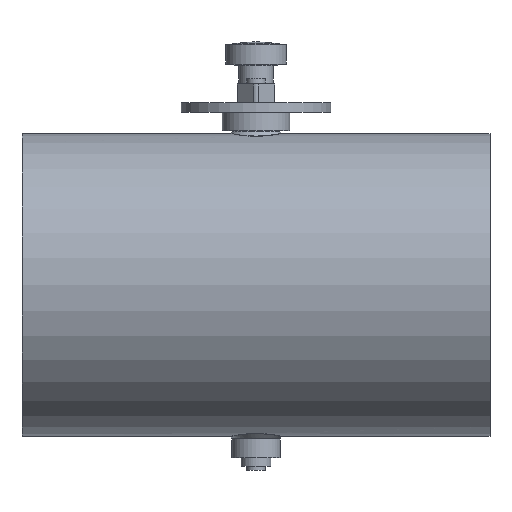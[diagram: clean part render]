
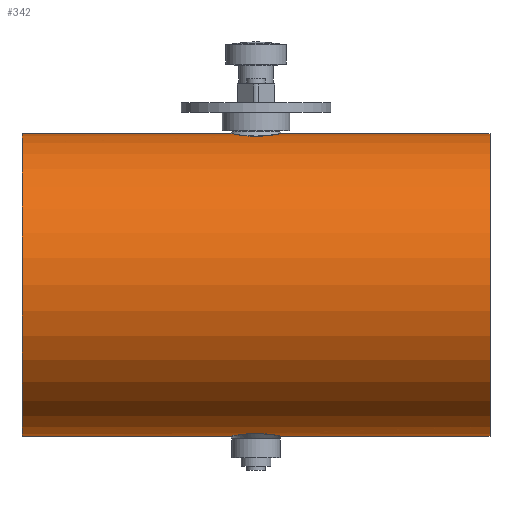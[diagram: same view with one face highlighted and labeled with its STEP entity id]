
A CAD part, top view. The second image highlights one B-rep face of the part: STEP entity #342.
In plain terms, the highlighted cylindrical face has radius 80.8 mm (diameter 161.6 mm), a full revolution.
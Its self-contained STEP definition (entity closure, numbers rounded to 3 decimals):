
#107=B_SPLINE_CURVE_WITH_KNOTS('',3,(#2034,#2035,#2036,#2037,#2038,#2039,
#2040,#2041,#2042,#2043,#2044,#2045,#2046,#2047,#2048,#2049,#2050,#2051,
#2052,#2053,#2054,#2055),.UNSPECIFIED.,.T.,.F.,(2,2,2,2,2,2,2,2,2,2,2,2,
2),(-0.062,0.,0.125,0.25,0.375,0.438,
0.5,0.625,0.75,0.875,0.938,1.,1.125),
 .UNSPECIFIED.);
#108=B_SPLINE_CURVE_WITH_KNOTS('',3,(#2057,#2058,#2059,#2060,#2061,#2062,
#2063,#2064,#2065,#2066,#2067,#2068,#2069,#2070,#2071,#2072,#2073,#2074,
#2075,#2076,#2077,#2078),.UNSPECIFIED.,.T.,.F.,(2,2,2,2,2,2,2,2,2,2,2,2,
2),(-0.125,0.,0.062,0.125,0.25,0.375,0.5,0.563,
0.625,0.75,0.875,1.,1.063),.UNSPECIFIED.);
#272=CYLINDRICAL_SURFACE('',#1393,80.8);
#342=ADVANCED_FACE('',(#507,#508,#509,#510),#272,.T.);
#507=FACE_BOUND('',#675,.T.);
#508=FACE_BOUND('',#676,.T.);
#509=FACE_BOUND('',#677,.T.);
#510=FACE_BOUND('',#678,.T.);
#675=EDGE_LOOP('',(#919));
#676=EDGE_LOOP('',(#920));
#677=EDGE_LOOP('',(#921));
#678=EDGE_LOOP('',(#922));
#919=ORIENTED_EDGE('',*,*,#1177,.T.);
#920=ORIENTED_EDGE('',*,*,#1178,.T.);
#921=ORIENTED_EDGE('',*,*,#1173,.T.);
#922=ORIENTED_EDGE('',*,*,#1175,.T.);
#1051=VERTEX_POINT('',#2025);
#1053=VERTEX_POINT('',#2030);
#1055=VERTEX_POINT('',#2056);
#1056=VERTEX_POINT('',#2079);
#1173=EDGE_CURVE('',#1051,#1051,#1253,.T.);
#1175=EDGE_CURVE('',#1053,#1053,#1255,.T.);
#1177=EDGE_CURVE('',#1055,#1055,#107,.T.);
#1178=EDGE_CURVE('',#1056,#1056,#108,.T.);
#1253=CIRCLE('',#1387,80.8);
#1255=CIRCLE('',#1390,80.8);
#1387=AXIS2_PLACEMENT_3D('',#2024,#1700,#1701);
#1390=AXIS2_PLACEMENT_3D('',#2029,#1706,#1707);
#1393=AXIS2_PLACEMENT_3D('',#2080,#1712,#1713);
#1700=DIRECTION('',(-1.,0.,0.));
#1701=DIRECTION('',(0.,0.,1.));
#1706=DIRECTION('',(1.,0.,0.));
#1707=DIRECTION('',(0.,0.,-1.));
#1712=DIRECTION('',(1.,0.,0.));
#1713=DIRECTION('',(0.,0.,-1.));
#2024=CARTESIAN_POINT('',(125.,-38.3,125.));
#2025=CARTESIAN_POINT('',(125.,-38.3,205.8));
#2029=CARTESIAN_POINT('',(-125.,-38.3,125.));
#2030=CARTESIAN_POINT('',(-125.,-38.3,44.2));
#2034=CARTESIAN_POINT('',(-2.062,-117.599,109.488));
#2035=CARTESIAN_POINT('',(-7.671,-117.937,111.287));
#2036=CARTESIAN_POINT('',(-10.71,-118.443,114.144));
#2037=CARTESIAN_POINT('',(-14.158,-119.079,121.063));
#2038=CARTESIAN_POINT('',(-14.603,-119.187,125.197));
#2039=CARTESIAN_POINT('',(-12.776,-118.819,132.714));
#2040=CARTESIAN_POINT('',(-10.485,-118.352,136.179));
#2041=CARTESIAN_POINT('',(-5.655,-117.819,139.371));
#2042=CARTESIAN_POINT('',(-3.811,-117.676,140.104));
#2043=CARTESIAN_POINT('',(0.052,-117.565,140.679));
#2044=CARTESIAN_POINT('',(2.042,-117.599,140.514));
#2045=CARTESIAN_POINT('',(7.634,-117.934,138.733));
#2046=CARTESIAN_POINT('',(10.688,-118.439,135.895));
#2047=CARTESIAN_POINT('',(14.17,-119.081,128.919));
#2048=CARTESIAN_POINT('',(14.607,-119.188,124.81));
#2049=CARTESIAN_POINT('',(12.77,-118.818,117.267));
#2050=CARTESIAN_POINT('',(10.468,-118.349,113.802));
#2051=CARTESIAN_POINT('',(5.638,-117.818,110.621));
#2052=CARTESIAN_POINT('',(3.774,-117.675,109.887));
#2053=CARTESIAN_POINT('',(-0.058,-117.565,109.324));
#2054=CARTESIAN_POINT('',(-2.062,-117.599,109.488));
#2055=CARTESIAN_POINT('',(-7.671,-117.937,111.287));
#2056=CARTESIAN_POINT('',(-3.932,-117.712,110.088));
#2057=CARTESIAN_POINT('',(-7.672,41.337,111.288));
#2058=CARTESIAN_POINT('',(-2.062,40.999,109.488));
#2059=CARTESIAN_POINT('',(-0.076,40.965,109.323));
#2060=CARTESIAN_POINT('',(3.765,41.074,109.884));
#2061=CARTESIAN_POINT('',(5.623,41.216,110.612));
#2062=CARTESIAN_POINT('',(10.487,41.751,113.813));
#2063=CARTESIAN_POINT('',(12.778,42.219,117.279));
#2064=CARTESIAN_POINT('',(14.609,42.588,124.842));
#2065=CARTESIAN_POINT('',(14.155,42.478,128.954));
#2066=CARTESIAN_POINT('',(10.699,41.841,135.869));
#2067=CARTESIAN_POINT('',(7.658,41.337,138.712));
#2068=CARTESIAN_POINT('',(2.088,41.001,140.505));
#2069=CARTESIAN_POINT('',(0.12,40.964,140.68));
#2070=CARTESIAN_POINT('',(-3.773,41.074,140.118));
#2071=CARTESIAN_POINT('',(-5.62,41.216,139.389));
#2072=CARTESIAN_POINT('',(-10.475,41.749,136.197));
#2073=CARTESIAN_POINT('',(-12.769,42.218,132.74));
#2074=CARTESIAN_POINT('',(-14.61,42.589,125.171));
#2075=CARTESIAN_POINT('',(-14.173,42.481,121.088));
#2076=CARTESIAN_POINT('',(-10.689,41.839,114.106));
#2077=CARTESIAN_POINT('',(-7.672,41.337,111.288));
#2078=CARTESIAN_POINT('',(-2.062,40.999,109.488));
#2079=CARTESIAN_POINT('',(-3.932,41.112,110.088));
#2080=CARTESIAN_POINT('',(-125.,-38.3,125.));
